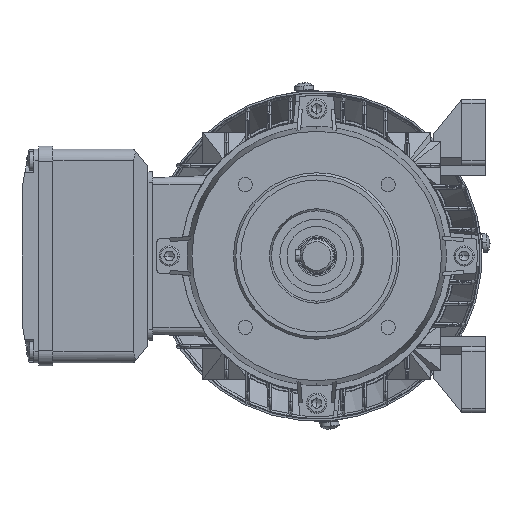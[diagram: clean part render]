
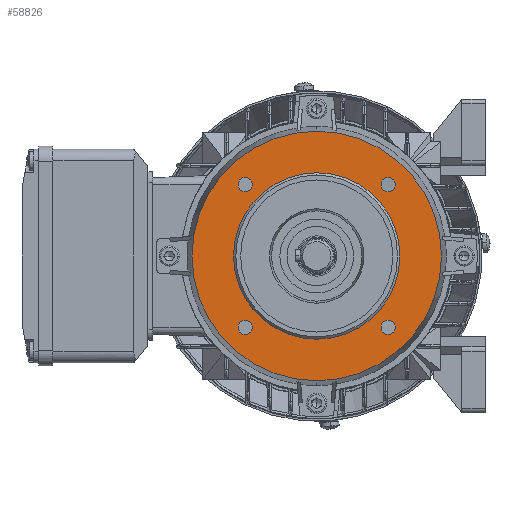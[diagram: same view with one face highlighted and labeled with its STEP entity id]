
A CAD part, left-side view. The second image highlights one B-rep face of the part: STEP entity #58826.
In plain terms, the highlighted planar face has unit normal (-1, 0, 0).
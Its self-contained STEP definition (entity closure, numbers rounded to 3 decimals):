
#1897 = DIRECTION ( 'NONE',  ( 0., 0., -1. ) ) ;
#3580 = EDGE_CURVE ( 'NONE', #77015, #112625, #22097, .T. ) ;
#4516 = DIRECTION ( 'NONE',  ( 0., 0., 1. ) ) ;
#5808 = CARTESIAN_POINT ( 'NONE',  ( -79.667, -7.056, 0. ) ) ;
#5933 = AXIS2_PLACEMENT_3D ( 'NONE', #113096, #36455, #45466 ) ;
#9318 = PLANE ( 'NONE',  #59181 ) ;
#9618 = AXIS2_PLACEMENT_3D ( 'NONE', #116613, #79852, #47701 ) ;
#10229 = CARTESIAN_POINT ( 'NONE',  ( -79.667, -7.056, 0. ) ) ;
#11072 = ORIENTED_EDGE ( 'NONE', *, *, #29172, .F. ) ;
#11354 = AXIS2_PLACEMENT_3D ( 'NONE', #68205, #76652, #98464 ) ;
#11673 = FACE_BOUND ( 'NONE', #63983, .T. ) ;
#11731 = VERTEX_POINT ( 'NONE', #98426 ) ;
#15665 = EDGE_LOOP ( 'NONE', ( #80757, #87868 ) ) ;
#16935 = VERTEX_POINT ( 'NONE', #100660 ) ;
#17791 = CIRCLE ( 'NONE', #108336, 3. ) ;
#20748 = EDGE_CURVE ( 'NONE', #41416, #103942, #84230, .T. ) ;
#21030 = CIRCLE ( 'NONE', #25188, 3. ) ;
#22097 = CIRCLE ( 'NONE', #65362, 35. ) ;
#22948 = VERTEX_POINT ( 'NONE', #72810 ) ;
#23860 = CARTESIAN_POINT ( 'NONE',  ( -79.667, 22.996, -33.052 ) ) ;
#25188 = AXIS2_PLACEMENT_3D ( 'NONE', #70883, #103049, #4516 ) ;
#25530 = CARTESIAN_POINT ( 'NONE',  ( -79.667, -7.056, 0. ) ) ;
#25959 = EDGE_CURVE ( 'NONE', #90470, #69379, #121023, .T. ) ;
#29172 = EDGE_CURVE ( 'NONE', #22948, #16935, #33952, .T. ) ;
#29563 = EDGE_CURVE ( 'NONE', #97709, #93199, #54632, .T. ) ;
#29625 = CARTESIAN_POINT ( 'NONE',  ( -79.667, -7.056, -52.5 ) ) ;
#30151 = DIRECTION ( 'NONE',  ( 1., 0., 0. ) ) ;
#30970 = AXIS2_PLACEMENT_3D ( 'NONE', #80200, #118224, #51162 ) ;
#31018 = CARTESIAN_POINT ( 'NONE',  ( -79.667, -37.108, -27.052 ) ) ;
#31021 = ORIENTED_EDGE ( 'NONE', *, *, #20748, .F. ) ;
#31539 = ORIENTED_EDGE ( 'NONE', *, *, #112955, .F. ) ;
#31621 = DIRECTION ( 'NONE',  ( 0., 0., 1. ) ) ;
#32596 = EDGE_CURVE ( 'NONE', #118232, #11731, #58977, .T. ) ;
#33952 = CIRCLE ( 'NONE', #11354, 3. ) ;
#35418 = DIRECTION ( 'NONE',  ( 0., 0., -1. ) ) ;
#36455 = DIRECTION ( 'NONE',  ( -1., 0., 0. ) ) ;
#39828 = DIRECTION ( 'NONE',  ( 0., 0., -1. ) ) ;
#41107 = CARTESIAN_POINT ( 'NONE',  ( -79.667, 22.996, -30.052 ) ) ;
#41416 = VERTEX_POINT ( 'NONE', #29625 ) ;
#41915 = DIRECTION ( 'NONE',  ( 0., 0., 1. ) ) ;
#44260 = DIRECTION ( 'NONE',  ( -1., 0., 0. ) ) ;
#45466 = DIRECTION ( 'NONE',  ( 0., 0., 1. ) ) ;
#46278 = EDGE_LOOP ( 'NONE', ( #31021, #31539 ) ) ;
#47701 = DIRECTION ( 'NONE',  ( 0., 0., 1. ) ) ;
#48569 = CARTESIAN_POINT ( 'NONE',  ( -79.667, -7.056, -52.5 ) ) ;
#50255 = AXIS2_PLACEMENT_3D ( 'NONE', #10229, #30151, #39828 ) ;
#51162 = DIRECTION ( 'NONE',  ( 0., 0., 1. ) ) ;
#51522 = CARTESIAN_POINT ( 'NONE',  ( -79.667, -7.056, 52.5 ) ) ;
#52806 = EDGE_CURVE ( 'NONE', #112625, #77015, #73942, .T. ) ;
#54135 = ORIENTED_EDGE ( 'NONE', *, *, #101973, .F. ) ;
#54258 = EDGE_CURVE ( 'NONE', #69379, #90470, #17791, .T. ) ;
#54632 = CIRCLE ( 'NONE', #64953, 3. ) ;
#55381 = DIRECTION ( 'NONE',  ( 1., 0., 0. ) ) ;
#55857 = DIRECTION ( 'NONE',  ( 0., 0., 1. ) ) ;
#58268 = FACE_BOUND ( 'NONE', #62894, .T. ) ;
#58826 = ADVANCED_FACE ( 'NONE', ( #107221, #86012, #66660, #58268, #11673, #97550 ), #9318, .T. ) ;
#58977 = CIRCLE ( 'NONE', #9618, 3. ) ;
#59181 = AXIS2_PLACEMENT_3D ( 'NONE', #48569, #68553, #31621 ) ;
#61872 = CARTESIAN_POINT ( 'NONE',  ( -79.667, -37.108, -30.052 ) ) ;
#61890 = CIRCLE ( 'NONE', #78396, 3. ) ;
#62894 = EDGE_LOOP ( 'NONE', ( #104478, #11072 ) ) ;
#63983 = EDGE_LOOP ( 'NONE', ( #54135, #120886 ) ) ;
#64399 = ORIENTED_EDGE ( 'NONE', *, *, #25959, .F. ) ;
#64953 = AXIS2_PLACEMENT_3D ( 'NONE', #65526, #44260, #55857 ) ;
#65362 = AXIS2_PLACEMENT_3D ( 'NONE', #25530, #93791, #1897 ) ;
#65526 = CARTESIAN_POINT ( 'NONE',  ( -79.667, 22.996, -30.052 ) ) ;
#66583 = CARTESIAN_POINT ( 'NONE',  ( -79.667, -7.056, 35. ) ) ;
#66660 = FACE_BOUND ( 'NONE', #120495, .T. ) ;
#68205 = CARTESIAN_POINT ( 'NONE',  ( -79.667, -37.108, 30.052 ) ) ;
#68553 = DIRECTION ( 'NONE',  ( -1., 0., 0. ) ) ;
#69379 = VERTEX_POINT ( 'NONE', #113406 ) ;
#70883 = CARTESIAN_POINT ( 'NONE',  ( -79.667, -37.108, 30.052 ) ) ;
#71051 = CARTESIAN_POINT ( 'NONE',  ( -79.667, -7.056, 0. ) ) ;
#72478 = ORIENTED_EDGE ( 'NONE', *, *, #3580, .T. ) ;
#72810 = CARTESIAN_POINT ( 'NONE',  ( -79.667, -37.108, 27.052 ) ) ;
#73942 = CIRCLE ( 'NONE', #96565, 35. ) ;
#75043 = CARTESIAN_POINT ( 'NONE',  ( -79.667, 22.996, -27.052 ) ) ;
#76652 = DIRECTION ( 'NONE',  ( -1., 0., 0. ) ) ;
#77015 = VERTEX_POINT ( 'NONE', #66583 ) ;
#78396 = AXIS2_PLACEMENT_3D ( 'NONE', #41107, #110007, #88202 ) ;
#79852 = DIRECTION ( 'NONE',  ( -1., 0., 0. ) ) ;
#80200 = CARTESIAN_POINT ( 'NONE',  ( -79.667, 22.996, 30.052 ) ) ;
#80757 = ORIENTED_EDGE ( 'NONE', *, *, #29563, .F. ) ;
#81360 = DIRECTION ( 'NONE',  ( 0., 0., -1. ) ) ;
#84230 = CIRCLE ( 'NONE', #102754, 52.5 ) ;
#86012 = FACE_BOUND ( 'NONE', #15665, .T. ) ;
#86443 = CARTESIAN_POINT ( 'NONE',  ( -79.667, -7.056, -35. ) ) ;
#86553 = CIRCLE ( 'NONE', #30970, 3. ) ;
#87868 = ORIENTED_EDGE ( 'NONE', *, *, #125923, .F. ) ;
#88202 = DIRECTION ( 'NONE',  ( 0., 0., 1. ) ) ;
#88480 = ORIENTED_EDGE ( 'NONE', *, *, #54258, .F. ) ;
#90470 = VERTEX_POINT ( 'NONE', #31018 ) ;
#93199 = VERTEX_POINT ( 'NONE', #23860 ) ;
#93791 = DIRECTION ( 'NONE',  ( 1., 0., 0. ) ) ;
#96565 = AXIS2_PLACEMENT_3D ( 'NONE', #5808, #55381, #35418 ) ;
#97550 = FACE_BOUND ( 'NONE', #109315, .T. ) ;
#97709 = VERTEX_POINT ( 'NONE', #75043 ) ;
#98426 = CARTESIAN_POINT ( 'NONE',  ( -79.667, 22.996, 33.052 ) ) ;
#98464 = DIRECTION ( 'NONE',  ( 0., 0., 1. ) ) ;
#99638 = CIRCLE ( 'NONE', #50255, 52.5 ) ;
#100660 = CARTESIAN_POINT ( 'NONE',  ( -79.667, -37.108, 33.052 ) ) ;
#101973 = EDGE_CURVE ( 'NONE', #11731, #118232, #86553, .T. ) ;
#102006 = ORIENTED_EDGE ( 'NONE', *, *, #52806, .T. ) ;
#102754 = AXIS2_PLACEMENT_3D ( 'NONE', #71051, #119372, #81360 ) ;
#103049 = DIRECTION ( 'NONE',  ( -1., 0., 0. ) ) ;
#103927 = EDGE_CURVE ( 'NONE', #16935, #22948, #21030, .T. ) ;
#103942 = VERTEX_POINT ( 'NONE', #51522 ) ;
#104478 = ORIENTED_EDGE ( 'NONE', *, *, #103927, .F. ) ;
#107221 = FACE_OUTER_BOUND ( 'NONE', #46278, .T. ) ;
#108336 = AXIS2_PLACEMENT_3D ( 'NONE', #61872, #112731, #41915 ) ;
#109315 = EDGE_LOOP ( 'NONE', ( #102006, #72478 ) ) ;
#110007 = DIRECTION ( 'NONE',  ( -1., 0., 0. ) ) ;
#112625 = VERTEX_POINT ( 'NONE', #86443 ) ;
#112731 = DIRECTION ( 'NONE',  ( -1., 0., 0. ) ) ;
#112955 = EDGE_CURVE ( 'NONE', #103942, #41416, #99638, .T. ) ;
#113096 = CARTESIAN_POINT ( 'NONE',  ( -79.667, -37.108, -30.052 ) ) ;
#113406 = CARTESIAN_POINT ( 'NONE',  ( -79.667, -37.108, -33.052 ) ) ;
#116613 = CARTESIAN_POINT ( 'NONE',  ( -79.667, 22.996, 30.052 ) ) ;
#117498 = CARTESIAN_POINT ( 'NONE',  ( -79.667, 22.996, 27.052 ) ) ;
#118224 = DIRECTION ( 'NONE',  ( -1., 0., 0. ) ) ;
#118232 = VERTEX_POINT ( 'NONE', #117498 ) ;
#119372 = DIRECTION ( 'NONE',  ( 1., 0., 0. ) ) ;
#120495 = EDGE_LOOP ( 'NONE', ( #64399, #88480 ) ) ;
#120886 = ORIENTED_EDGE ( 'NONE', *, *, #32596, .F. ) ;
#121023 = CIRCLE ( 'NONE', #5933, 3. ) ;
#125923 = EDGE_CURVE ( 'NONE', #93199, #97709, #61890, .T. ) ;
